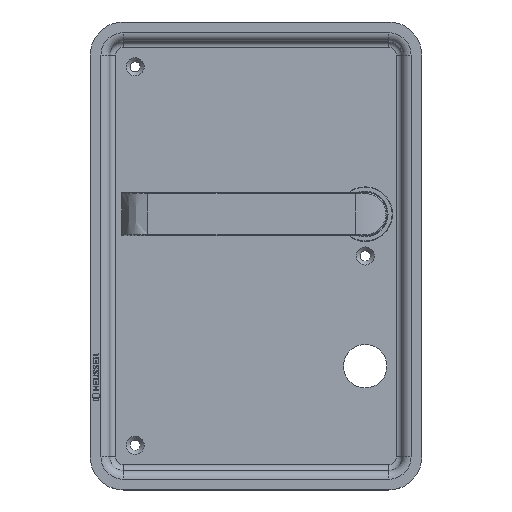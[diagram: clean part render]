
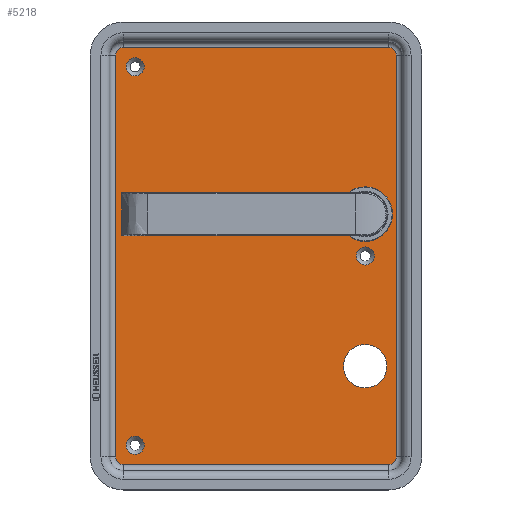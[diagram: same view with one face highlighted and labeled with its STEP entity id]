
A CAD part, top view. The second image highlights one B-rep face of the part: STEP entity #5218.
In plain terms, the highlighted planar face has unit normal (0, 0, 1).
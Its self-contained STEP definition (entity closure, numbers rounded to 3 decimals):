
#289=LINE('',#7360,#683);
#291=LINE('',#7378,#685);
#292=LINE('',#7381,#686);
#294=LINE('',#7398,#688);
#683=VECTOR('',#6084,10.);
#685=VECTOR('',#6106,10.);
#686=VECTOR('',#6109,10.);
#688=VECTOR('',#6131,10.);
#1152=FACE_BOUND('',#1624,.T.);
#1153=FACE_BOUND('',#1625,.T.);
#1154=FACE_BOUND('',#1626,.T.);
#1155=FACE_BOUND('',#1627,.T.);
#1156=FACE_BOUND('',#1628,.T.);
#1291=FACE_OUTER_BOUND('',#1623,.T.);
#1623=EDGE_LOOP('',(#3633,#3634,#3635,#3636,#3637,#3638,#3639,#3640));
#1624=EDGE_LOOP('',(#3641));
#1625=EDGE_LOOP('',(#3642));
#1626=EDGE_LOOP('',(#3643));
#1627=EDGE_LOOP('',(#3644));
#1628=EDGE_LOOP('',(#3645));
#1945=CIRCLE('',#5533,4.);
#1946=CIRCLE('',#5535,4.);
#1953=CIRCLE('',#5545,4.);
#1954=CIRCLE('',#5547,4.);
#2003=CIRCLE('',#5647,4.65);
#2004=CIRCLE('',#5649,4.65);
#2005=CIRCLE('',#5651,14.);
#2006=CIRCLE('',#5652,11.15);
#2007=CIRCLE('',#5653,4.65);
#2125=VERTEX_POINT('',#7354);
#2127=VERTEX_POINT('',#7358);
#2129=VERTEX_POINT('',#7364);
#2130=VERTEX_POINT('',#7368);
#2133=VERTEX_POINT('',#7376);
#2134=VERTEX_POINT('',#7380);
#2137=VERTEX_POINT('',#7388);
#2138=VERTEX_POINT('',#7392);
#2199=VERTEX_POINT('',#7610);
#2200=VERTEX_POINT('',#7613);
#2201=VERTEX_POINT('',#7616);
#2202=VERTEX_POINT('',#7618);
#2203=VERTEX_POINT('',#7620);
#2626=EDGE_CURVE('',#2127,#2125,#289,.T.);
#2629=EDGE_CURVE('',#2129,#2127,#1945,.T.);
#2630=EDGE_CURVE('',#2125,#2130,#1946,.T.);
#2635=EDGE_CURVE('',#2133,#2129,#291,.T.);
#2636=EDGE_CURVE('',#2130,#2134,#292,.T.);
#2641=EDGE_CURVE('',#2137,#2133,#1953,.T.);
#2642=EDGE_CURVE('',#2134,#2138,#1954,.T.);
#2645=EDGE_CURVE('',#2138,#2137,#294,.T.);
#2746=EDGE_CURVE('',#2199,#2199,#2003,.T.);
#2747=EDGE_CURVE('',#2200,#2200,#2004,.T.);
#2748=EDGE_CURVE('',#2201,#2201,#2005,.T.);
#2749=EDGE_CURVE('',#2202,#2202,#2006,.T.);
#2750=EDGE_CURVE('',#2203,#2203,#2007,.T.);
#3633=ORIENTED_EDGE('',*,*,#2645,.F.);
#3634=ORIENTED_EDGE('',*,*,#2642,.F.);
#3635=ORIENTED_EDGE('',*,*,#2636,.F.);
#3636=ORIENTED_EDGE('',*,*,#2630,.F.);
#3637=ORIENTED_EDGE('',*,*,#2626,.F.);
#3638=ORIENTED_EDGE('',*,*,#2629,.F.);
#3639=ORIENTED_EDGE('',*,*,#2635,.F.);
#3640=ORIENTED_EDGE('',*,*,#2641,.F.);
#3641=ORIENTED_EDGE('',*,*,#2748,.T.);
#3642=ORIENTED_EDGE('',*,*,#2749,.T.);
#3643=ORIENTED_EDGE('',*,*,#2747,.F.);
#3644=ORIENTED_EDGE('',*,*,#2746,.F.);
#3645=ORIENTED_EDGE('',*,*,#2750,.F.);
#4719=PLANE('',#5650);
#5218=ADVANCED_FACE('',(#1291,#1152,#1153,#1154,#1155,#1156),#4719,.T.);
#5533=AXIS2_PLACEMENT_3D('',#7366,#6091,#6092);
#5535=AXIS2_PLACEMENT_3D('',#7369,#6095,#6096);
#5545=AXIS2_PLACEMENT_3D('',#7390,#6119,#6120);
#5547=AXIS2_PLACEMENT_3D('',#7393,#6123,#6124);
#5647=AXIS2_PLACEMENT_3D('',#7611,#6376,#6377);
#5649=AXIS2_PLACEMENT_3D('',#7614,#6380,#6381);
#5650=AXIS2_PLACEMENT_3D('',#7615,#6382,#6383);
#5651=AXIS2_PLACEMENT_3D('',#7617,#6384,#6385);
#5652=AXIS2_PLACEMENT_3D('',#7619,#6386,#6387);
#5653=AXIS2_PLACEMENT_3D('',#7621,#6388,#6389);
#6084=DIRECTION('',(0.,-1.,0.));
#6091=DIRECTION('center_axis',(0.,0.,-1.));
#6092=DIRECTION('ref_axis',(0.707,0.707,0.));
#6095=DIRECTION('center_axis',(0.,0.,-1.));
#6096=DIRECTION('ref_axis',(0.707,-0.707,0.));
#6106=DIRECTION('',(1.,0.,0.));
#6109=DIRECTION('',(-1.,0.,0.));
#6119=DIRECTION('center_axis',(0.,0.,-1.));
#6120=DIRECTION('ref_axis',(-0.707,0.707,0.));
#6123=DIRECTION('center_axis',(0.,0.,-1.));
#6124=DIRECTION('ref_axis',(-0.707,-0.707,0.));
#6131=DIRECTION('',(0.,1.,0.));
#6376=DIRECTION('center_axis',(0.,0.,1.));
#6377=DIRECTION('ref_axis',(-1.,0.,0.));
#6380=DIRECTION('center_axis',(0.,0.,1.));
#6381=DIRECTION('ref_axis',(-1.,0.,0.));
#6382=DIRECTION('center_axis',(0.,0.,1.));
#6383=DIRECTION('ref_axis',(1.,0.,0.));
#6384=DIRECTION('center_axis',(0.,0.,-1.));
#6385=DIRECTION('ref_axis',(1.,0.,0.));
#6386=DIRECTION('center_axis',(0.,0.,-1.));
#6387=DIRECTION('ref_axis',(-1.,0.,0.));
#6388=DIRECTION('center_axis',(0.,0.,1.));
#6389=DIRECTION('ref_axis',(-1.,0.,0.));
#7354=CARTESIAN_POINT('',(70.865,-93.546,-5.5));
#7358=CARTESIAN_POINT('',(70.865,112.454,-5.5));
#7360=CARTESIAN_POINT('',(70.865,60.954,-5.5));
#7364=CARTESIAN_POINT('',(66.865,116.454,-5.5));
#7366=CARTESIAN_POINT('Origin',(66.865,112.454,-5.5));
#7368=CARTESIAN_POINT('',(66.865,-97.546,-5.5));
#7369=CARTESIAN_POINT('Origin',(66.865,-93.546,-5.5));
#7376=CARTESIAN_POINT('',(-69.135,116.454,-5.5));
#7378=CARTESIAN_POINT('',(-35.135,116.454,-5.5));
#7380=CARTESIAN_POINT('',(-69.135,-97.546,-5.5));
#7381=CARTESIAN_POINT('',(32.865,-97.546,-5.5));
#7388=CARTESIAN_POINT('',(-73.135,112.454,-5.5));
#7390=CARTESIAN_POINT('Origin',(-69.135,112.454,-5.5));
#7392=CARTESIAN_POINT('',(-73.135,-93.546,-5.5));
#7393=CARTESIAN_POINT('Origin',(-69.135,-93.546,-5.5));
#7398=CARTESIAN_POINT('',(-73.135,-42.046,-5.5));
#7610=CARTESIAN_POINT('',(-58.485,106.454,-5.5));
#7611=CARTESIAN_POINT('Origin',(-63.135,106.454,-5.5));
#7613=CARTESIAN_POINT('',(59.515,9.454,-5.5));
#7614=CARTESIAN_POINT('Origin',(54.865,9.454,-5.5));
#7615=CARTESIAN_POINT('Origin',(-1.135,9.454,-5.5));
#7616=CARTESIAN_POINT('',(40.865,30.954,-5.5));
#7617=CARTESIAN_POINT('Origin',(54.865,30.954,-5.5));
#7618=CARTESIAN_POINT('',(66.015,-47.046,-5.5));
#7619=CARTESIAN_POINT('Origin',(54.865,-47.046,-5.5));
#7620=CARTESIAN_POINT('',(-58.485,-87.546,-5.5));
#7621=CARTESIAN_POINT('Origin',(-63.135,-87.546,-5.5));
